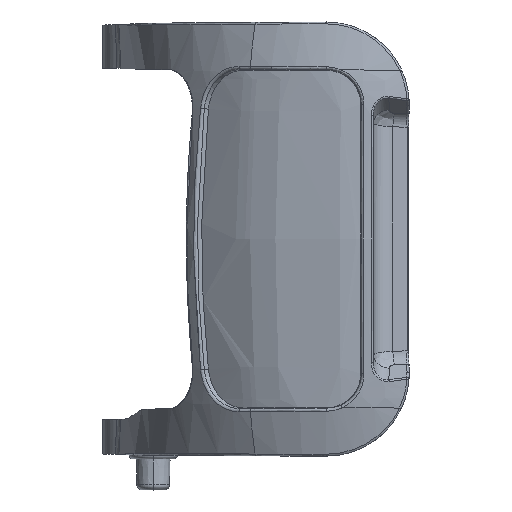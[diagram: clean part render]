
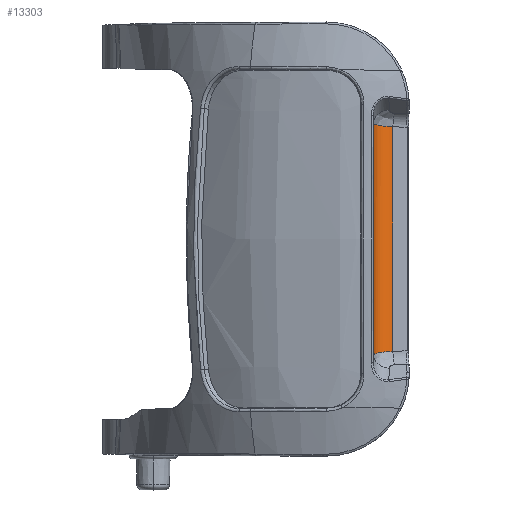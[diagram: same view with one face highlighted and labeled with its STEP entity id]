
A CAD part, top view. The second image highlights one B-rep face of the part: STEP entity #13303.
In plain terms, the highlighted cylindrical face has radius 4 mm (diameter 8 mm), a partial arc.
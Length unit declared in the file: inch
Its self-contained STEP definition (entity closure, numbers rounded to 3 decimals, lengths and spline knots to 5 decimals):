
#383 = CARTESIAN_POINT ( 'NONE',  ( -1.00935, -0.53778, 0.20754 ) ) ;
#458 = CARTESIAN_POINT ( 'NONE',  ( -1.01986, -0.54153, 0.23069 ) ) ;
#488 = CARTESIAN_POINT ( 'NONE',  ( -1.01457, 1.15957, 0.21811 ) ) ;
#600 = VECTOR ( 'NONE', #6078, 39.37008 ) ;
#633 = B_SPLINE_CURVE_WITH_KNOTS ( 'NONE', 3,
 ( #7553, #4139, #6436, #8460, #12931, #10700, #10845, #640, #8607, #11881, #13083, #5176, #707, #2948, #14285, #13159, #5099, #9732, #12033, #2724, #488, #11812, #9659, #5025, #13007, #14210, #1823, #6364, #1679, #1606, #10919, #7328 ),
 .UNSPECIFIED., .F., .F.,
 ( 4, 2, 2, 2, 2, 1, 1, 2, 2, 2, 2, 1, 1, 1, 1, 2, 2, 2, 4 ),
 ( 0., 0.125, 0.25, 0.375, 0.4375, 0.46875, 0.48438, 0.49219, 0.5, 0.625, 0.6875, 0.71875, 0.73438, 0.74219, 0.74609, 0.74805, 0.75, 0.875, 1. ),
 .UNSPECIFIED. ) ;
#640 = CARTESIAN_POINT ( 'NONE',  ( -0.96785, 1.15021, 0.16047 ) ) ;
#707 = CARTESIAN_POINT ( 'NONE',  ( -0.98478, 1.15265, 0.17553 ) ) ;
#1295 = VERTEX_POINT ( 'NONE', #5421 ) ;
#1495 = CARTESIAN_POINT ( 'NONE',  ( -1.02765, -0.54601, 0.25822 ) ) ;
#1571 = CARTESIAN_POINT ( 'NONE',  ( -0.987, -0.53295, 0.17784 ) ) ;
#1606 = CARTESIAN_POINT ( 'NONE',  ( -1.02765, 1.16609, 0.25822 ) ) ;
#1634 = VERTEX_POINT ( 'NONE', #8741 ) ;
#1679 = CARTESIAN_POINT ( 'NONE',  ( -1.02339, 1.16318, 0.24035 ) ) ;
#1794 = CARTESIAN_POINT ( 'NONE',  ( -1.01939, -0.54133, 0.22944 ) ) ;
#1823 = CARTESIAN_POINT ( 'NONE',  ( -1.01825, 1.16094, 0.22657 ) ) ;
#2265 = VECTOR ( 'NONE', #14554, 39.37008 ) ;
#2679 = CARTESIAN_POINT ( 'NONE',  ( -0.87233, -1.42301, 0.28577 ) ) ;
#2693 = CARTESIAN_POINT ( 'NONE',  ( -0.98732, -0.53301, 0.17818 ) ) ;
#2724 = CARTESIAN_POINT ( 'NONE',  ( -1.01283, 1.159, 0.2146 ) ) ;
#2826 = EDGE_LOOP ( 'NONE', ( #5732, #10576, #4671, #13160 ) ) ;
#2948 = CARTESIAN_POINT ( 'NONE',  ( -0.98567, 1.1528, 0.17644 ) ) ;
#3791 = CYLINDRICAL_SURFACE ( 'NONE', #5346, 0.15748 ) ;
#3962 = CARTESIAN_POINT ( 'NONE',  ( -0.99407, -0.53425, 0.18585 ) ) ;
#4139 = CARTESIAN_POINT ( 'NONE',  ( -0.89506, 1.14521, 0.12968 ) ) ;
#4332 = CARTESIAN_POINT ( 'NONE',  ( -0.95585, -0.52874, 0.15191 ) ) ;
#4671 = ORIENTED_EDGE ( 'NONE', *, *, #6110, .F. ) ;
#4923 = CARTESIAN_POINT ( 'NONE',  ( -1.00126, -0.53578, 0.19522 ) ) ;
#5025 = CARTESIAN_POINT ( 'NONE',  ( -1.01785, 1.16078, 0.22557 ) ) ;
#5099 = CARTESIAN_POINT ( 'NONE',  ( -0.99856, 1.15519, 0.19111 ) ) ;
#5176 = CARTESIAN_POINT ( 'NONE',  ( -0.98344, 1.15243, 0.17416 ) ) ;
#5218 = CARTESIAN_POINT ( 'NONE',  ( -1.01857, -0.54099, 0.22734 ) ) ;
#5241 = EDGE_CURVE ( 'NONE', #11872, #1295, #633, .T. ) ;
#5346 = AXIS2_PLACEMENT_3D ( 'NONE', #2679, #8413, #11762 ) ;
#5421 = CARTESIAN_POINT ( 'NONE',  ( -1.02971, 1.16966, 0.28028 ) ) ;
#5732 = ORIENTED_EDGE ( 'NONE', *, *, #13363, .F. ) ;
#5952 = EDGE_CURVE ( 'NONE', #7559, #1634, #6439, .T. ) ;
#6034 = CARTESIAN_POINT ( 'NONE',  ( -1.02327, -0.54316, 0.2407 ) ) ;
#6078 = DIRECTION ( 'NONE',  ( 0., 1., 0. ) ) ;
#6110 = EDGE_CURVE ( 'NONE', #11872, #1634, #6479, .T. ) ;
#6111 = CARTESIAN_POINT ( 'NONE',  ( -0.97949, -0.53166, 0.16992 ) ) ;
#6184 = CARTESIAN_POINT ( 'NONE',  ( -1.01837, -0.54091, 0.22686 ) ) ;
#6364 = CARTESIAN_POINT ( 'NONE',  ( -1.02079, 1.16196, 0.23284 ) ) ;
#6403 = CARTESIAN_POINT ( 'NONE',  ( -0.88605, -0.525, 0.12889 ) ) ;
#6436 = CARTESIAN_POINT ( 'NONE',  ( -0.90407, 1.14547, 0.13125 ) ) ;
#6439 = B_SPLINE_CURVE_WITH_KNOTS ( 'NONE', 3,
 ( #11777, #7446, #1495, #10814, #6034, #12003, #10590, #458, #1794, #7373, #5218, #8347, #6184, #9771, #14176, #383, #4923, #9474, #3962, #8504, #12900, #13052, #2693, #1571, #6111, #12364, #4332, #11034, #8645, #7521, #6403 ),
 .UNSPECIFIED., .F., .F.,
 ( 4, 2, 2, 2, 1, 1, 1, 2, 2, 2, 2, 1, 1, 2, 2, 2, 2, 4 ),
 ( 0., 0.125, 0.1875, 0.21875, 0.23437, 0.24219, 0.24609, 0.24805, 0.25, 0.375, 0.4375, 0.46875, 0.48437, 0.49219, 0.5, 0.625, 0.75, 1. ),
 .UNSPECIFIED. ) ;
#6479 = LINE ( 'NONE', #13277, #2265 ) ;
#6915 = CARTESIAN_POINT ( 'NONE',  ( -1.02971, -0.54958, 0.28028 ) ) ;
#7328 = CARTESIAN_POINT ( 'NONE',  ( -1.02971, 1.16966, 0.28028 ) ) ;
#7373 = CARTESIAN_POINT ( 'NONE',  ( -1.01884, -0.5411, 0.22803 ) ) ;
#7446 = CARTESIAN_POINT ( 'NONE',  ( -1.0293, -0.54768, 0.26858 ) ) ;
#7505 = FACE_OUTER_BOUND ( 'NONE', #2826, .T. ) ;
#7521 = CARTESIAN_POINT ( 'NONE',  ( -0.90406, -0.52526, 0.13047 ) ) ;
#7553 = CARTESIAN_POINT ( 'NONE',  ( -0.88605, 1.14508, 0.12889 ) ) ;
#7559 = VERTEX_POINT ( 'NONE', #6915 ) ;
#8347 = CARTESIAN_POINT ( 'NONE',  ( -1.01845, -0.54094, 0.22705 ) ) ;
#8413 = DIRECTION ( 'NONE',  ( 0., -1., 0. ) ) ;
#8460 = CARTESIAN_POINT ( 'NONE',  ( -0.92181, 1.14624, 0.13599 ) ) ;
#8504 = CARTESIAN_POINT ( 'NONE',  ( -0.99185, -0.53382, 0.18319 ) ) ;
#8607 = CARTESIAN_POINT ( 'NONE',  ( -0.97176, 1.15071, 0.16355 ) ) ;
#8645 = CARTESIAN_POINT ( 'NONE',  ( -0.9221, -0.52603, 0.13521 ) ) ;
#8741 = CARTESIAN_POINT ( 'NONE',  ( -0.88605, -0.525, 0.12889 ) ) ;
#9474 = CARTESIAN_POINT ( 'NONE',  ( -0.99844, -0.53514, 0.19134 ) ) ;
#9637 = CARTESIAN_POINT ( 'NONE',  ( -0.88605, 1.14508, 0.12889 ) ) ;
#9659 = CARTESIAN_POINT ( 'NONE',  ( -1.0174, 1.1606, 0.22449 ) ) ;
#9732 = CARTESIAN_POINT ( 'NONE',  ( -1.00666, 1.15719, 0.20343 ) ) ;
#9771 = CARTESIAN_POINT ( 'NONE',  ( -1.01836, -0.5409, 0.22682 ) ) ;
#10576 = ORIENTED_EDGE ( 'NONE', *, *, #5952, .T. ) ;
#10590 = CARTESIAN_POINT ( 'NONE',  ( -1.0208, -0.54195, 0.23326 ) ) ;
#10700 = CARTESIAN_POINT ( 'NONE',  ( -0.9475, 1.14803, 0.14708 ) ) ;
#10814 = CARTESIAN_POINT ( 'NONE',  ( -1.02446, -0.54383, 0.24482 ) ) ;
#10845 = CARTESIAN_POINT ( 'NONE',  ( -0.95585, 1.14882, 0.15191 ) ) ;
#10919 = CARTESIAN_POINT ( 'NONE',  ( -1.0293, 1.16776, 0.26858 ) ) ;
#11034 = CARTESIAN_POINT ( 'NONE',  ( -0.94745, -0.52795, 0.14705 ) ) ;
#11762 = DIRECTION ( 'NONE',  ( 0., 0., -1. ) ) ;
#11777 = CARTESIAN_POINT ( 'NONE',  ( -1.02971, -0.54958, 0.28028 ) ) ;
#11812 = CARTESIAN_POINT ( 'NONE',  ( -1.01648, 1.16025, 0.22234 ) ) ;
#11872 = VERTEX_POINT ( 'NONE', #9637 ) ;
#11881 = CARTESIAN_POINT ( 'NONE',  ( -0.97745, 1.15151, 0.16849 ) ) ;
#12003 = CARTESIAN_POINT ( 'NONE',  ( -1.02143, -0.54224, 0.23505 ) ) ;
#12033 = CARTESIAN_POINT ( 'NONE',  ( -1.00923, 1.15789, 0.20777 ) ) ;
#12364 = CARTESIAN_POINT ( 'NONE',  ( -0.97185, -0.5306, 0.16333 ) ) ;
#12900 = CARTESIAN_POINT ( 'NONE',  ( -0.98922, -0.53334, 0.18024 ) ) ;
#12931 = CARTESIAN_POINT ( 'NONE',  ( -0.9305, 1.14674, 0.13913 ) ) ;
#12942 = CARTESIAN_POINT ( 'NONE',  ( -1.02971, 1.21739, 0.28028 ) ) ;
#13007 = CARTESIAN_POINT ( 'NONE',  ( -1.01804, 1.16085, 0.22604 ) ) ;
#13052 = CARTESIAN_POINT ( 'NONE',  ( -0.98808, -0.53314, 0.179 ) ) ;
#13083 = CARTESIAN_POINT ( 'NONE',  ( -0.98025, 1.15193, 0.17104 ) ) ;
#13159 = CARTESIAN_POINT ( 'NONE',  ( -0.99267, 1.154, 0.18381 ) ) ;
#13160 = ORIENTED_EDGE ( 'NONE', *, *, #5241, .T. ) ;
#13277 = CARTESIAN_POINT ( 'NONE',  ( -0.88605, -0.59731, 0.12889 ) ) ;
#13303 = ADVANCED_FACE ( 'NONE', ( #7505 ), #3791, .F. ) ;
#13363 = EDGE_CURVE ( 'NONE', #7559, #1295, #14141, .T. ) ;
#14141 = LINE ( 'NONE', #12942, #600 ) ;
#14176 = CARTESIAN_POINT ( 'NONE',  ( -1.01425, -0.53925, 0.21667 ) ) ;
#14210 = CARTESIAN_POINT ( 'NONE',  ( -1.01817, 1.1609, 0.22635 ) ) ;
#14285 = CARTESIAN_POINT ( 'NONE',  ( -0.98618, 1.15289, 0.17697 ) ) ;
#14554 = DIRECTION ( 'NONE',  ( 0., -1., 0. ) ) ;
